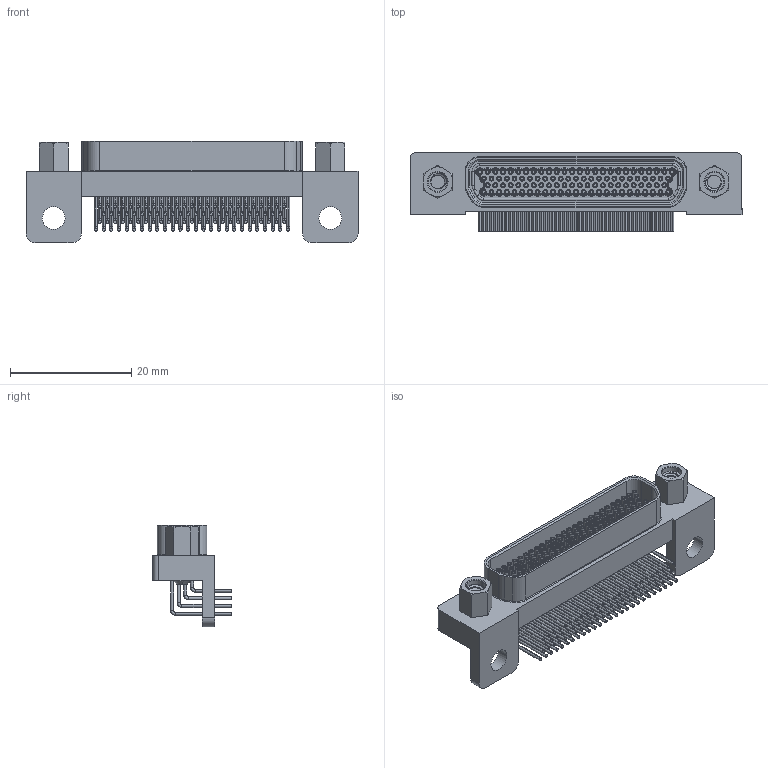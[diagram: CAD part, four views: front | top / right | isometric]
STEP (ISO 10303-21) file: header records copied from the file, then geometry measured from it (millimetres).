
FILE_DESCRIPTION (( 'STEP AP214' ), '1' );
FILE_NAME ('A99421-100 REV C.STEP', '2020-11-11T16:11:11', ( '' ), ( '' ), 'SwSTEP 2.0', 'SolidWorks 2019', '' );
FILE_SCHEMA (( 'AUTOMOTIVE_DESIGN' ));
Length unit declared in the file: inch
Products named in the file (1): A99421-100 REV C
Bounding box: 54.86 x 13.12 x 16.76 mm (x, y, z)
Volume: 3352.7 mm3; surface area: 6168.5 mm2
Topology: 1 solids, 1 shells, 1901 faces, 4148 edges, 2576 vertices
Faces by surface type: cylinder 1008, plane 484, torus 329, bspline 54, cone 26
Entity records: 80190 total; most frequent: CARTESIAN_POINT 13446, DIRECTION 10117, ORIENTED_EDGE 8296, AXIS2_PLACEMENT_3D 4299, EDGE_CURVE 4148, VERTEX_POINT 2576, CIRCLE 2451, EDGE_LOOP 2232
